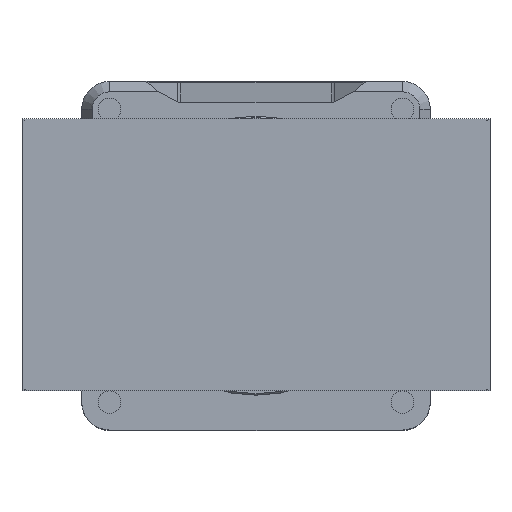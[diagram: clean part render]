
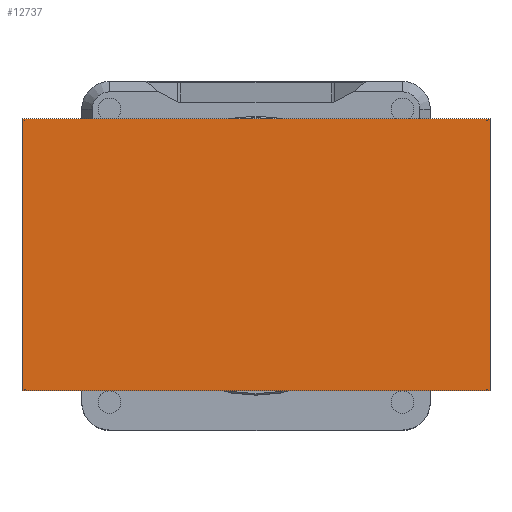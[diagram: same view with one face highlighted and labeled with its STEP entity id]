
A CAD part, top view. The second image highlights one B-rep face of the part: STEP entity #12737.
In plain terms, the highlighted planar face has unit normal (0, 0, 1).
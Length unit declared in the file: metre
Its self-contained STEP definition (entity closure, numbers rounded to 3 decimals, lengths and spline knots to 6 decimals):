
#4827=ORIENTED_EDGE('',*,*,#6615,.F.);
#4828=ORIENTED_EDGE('',*,*,#6616,.T.);
#4829=ORIENTED_EDGE('',*,*,#6612,.T.);
#4830=ORIENTED_EDGE('',*,*,#6617,.F.);
#6612=EDGE_CURVE('',#7803,#7804,#8833,.T.);
#6615=EDGE_CURVE('',#7806,#7805,#8836,.T.);
#6616=EDGE_CURVE('',#7806,#7803,#8837,.T.);
#6617=EDGE_CURVE('',#7805,#7804,#8838,.T.);
#7803=VERTEX_POINT('',#23473);
#7804=VERTEX_POINT('',#23475);
#7805=VERTEX_POINT('',#23479);
#7806=VERTEX_POINT('',#23481);
#8833=LINE('',#23476,#9865);
#8836=LINE('',#23482,#9868);
#8837=LINE('',#23484,#9869);
#8838=LINE('',#23485,#9870);
#9865=VECTOR('',#18098,1.);
#9868=VECTOR('',#18103,1.);
#9869=VECTOR('',#18106,1.);
#9870=VECTOR('',#18107,1.);
#10768=EDGE_LOOP('',(#4827,#4828,#4829,#4830));
#11674=FACE_BOUND('',#10768,.T.);
#11991=PLANE('',#14261);
#12737=ADVANCED_FACE('',(#11674),#11991,.T.);
#14261=AXIS2_PLACEMENT_3D('',#23483,#18104,#18105);
#18098=DIRECTION('',(0.,-1.,0.));
#18103=DIRECTION('',(0.,-1.,0.));
#18104=DIRECTION('',(0.,0.,1.));
#18105=DIRECTION('',(0.,-1.,0.));
#18106=DIRECTION('',(-1.,0.,0.));
#18107=DIRECTION('',(-1.,0.,0.));
#23473=CARTESIAN_POINT('',(-0.016782,0.009755,0.033666));
#23475=CARTESIAN_POINT('',(-0.016782,-0.009755,0.033666));
#23476=CARTESIAN_POINT('',(-0.016782,0.009757,0.033666));
#23479=CARTESIAN_POINT('',(0.016782,-0.009755,0.033666));
#23481=CARTESIAN_POINT('',(0.016782,0.009755,0.033666));
#23482=CARTESIAN_POINT('',(0.016782,0.009757,0.033666));
#23483=CARTESIAN_POINT('',(0.,0.009757,0.033666));
#23484=CARTESIAN_POINT('',(0.,0.009755,0.033666));
#23485=CARTESIAN_POINT('',(0.,-0.009755,0.033666));
